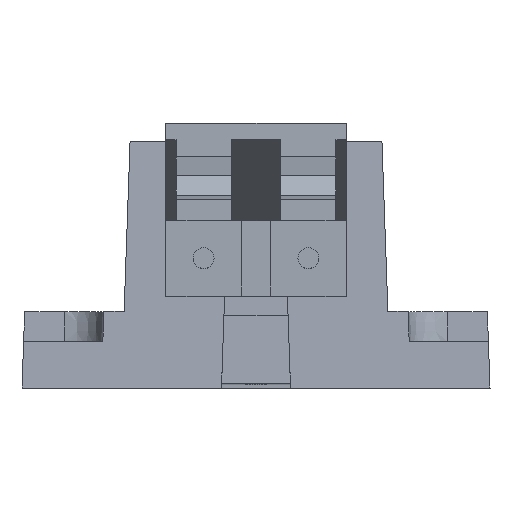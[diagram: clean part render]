
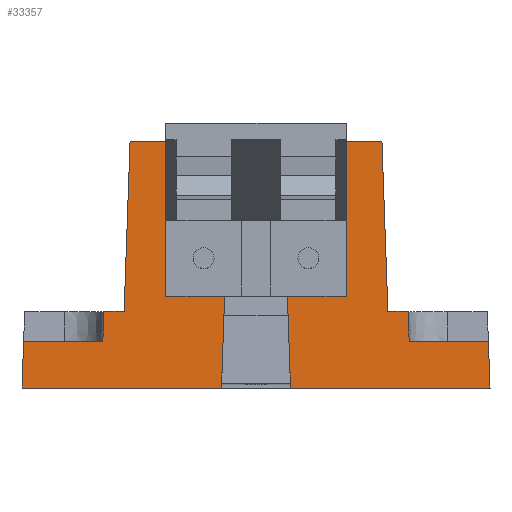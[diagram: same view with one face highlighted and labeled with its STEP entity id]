
A CAD part, top view. The second image highlights one B-rep face of the part: STEP entity #33357.
In plain terms, the highlighted planar face has unit normal (0, 0.035, 0.999).
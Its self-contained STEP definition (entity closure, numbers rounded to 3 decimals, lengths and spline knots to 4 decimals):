
#577 = VERTEX_POINT ( 'NONE', #27700 ) ;
#873 = VECTOR ( 'NONE', #10058, 39.3701 ) ;
#896 = ORIENTED_EDGE ( 'NONE', *, *, #11967, .F. ) ;
#1096 = CARTESIAN_POINT ( 'NONE',  ( -0.3086, -0.0698, 0.6573 ) ) ;
#1538 = VERTEX_POINT ( 'NONE', #14674 ) ;
#1718 = VECTOR ( 'NONE', #38272, 39.3701 ) ;
#1773 = CARTESIAN_POINT ( 'NONE',  ( -0.55, -0.29, 0.665 ) ) ;
#2478 = CARTESIAN_POINT ( 'NONE',  ( -0.0812, -0.29, 0.665 ) ) ;
#2604 = VECTOR ( 'NONE', #13169, 39.3701 ) ;
#3720 = ORIENTED_EDGE ( 'NONE', *, *, #38564, .F. ) ;
#4106 = VERTEX_POINT ( 'NONE', #6189 ) ;
#4442 = CARTESIAN_POINT ( 'NONE',  ( 0.55, -0.11, 0.6587 ) ) ;
#4703 = LINE ( 'NONE', #21887, #31379 ) ;
#4911 = DIRECTION ( 'NONE',  ( -0.035, -0.999, 0.035 ) ) ;
#5694 = VECTOR ( 'NONE', #22563, 39.3701 ) ;
#5908 = ORIENTED_EDGE ( 'NONE', *, *, #33620, .T. ) ;
#5923 = VECTOR ( 'NONE', #38105, 39.3701 ) ;
#6158 = AXIS2_PLACEMENT_3D ( 'NONE', #1773, #22459, #18981 ) ;
#6189 = CARTESIAN_POINT ( 'NONE',  ( 0.5462, -0.18, 0.6612 ) ) ;
#6546 = FACE_OUTER_BOUND ( 'NONE', #15514, .T. ) ;
#7117 = LINE ( 'NONE', #17545, #39768 ) ;
#7917 = LINE ( 'NONE', #1096, #32368 ) ;
#8007 = LINE ( 'NONE', #33281, #16145 ) ;
#8013 = ORIENTED_EDGE ( 'NONE', *, *, #21787, .F. ) ;
#8757 = VECTOR ( 'NONE', #44839, 39.3701 ) ;
#8810 = EDGE_CURVE ( 'NONE', #31284, #11715, #7117, .T. ) ;
#9016 = CARTESIAN_POINT ( 'NONE',  ( 0.31, -0.11, 0.6587 ) ) ;
#9143 = DIRECTION ( 'NONE',  ( -0.035, -0.999, 0.035 ) ) ;
#9154 = VERTEX_POINT ( 'NONE', #14427 ) ;
#9369 = ORIENTED_EDGE ( 'NONE', *, *, #8810, .T. ) ;
#9759 = CARTESIAN_POINT ( 'NONE',  ( 0.3627, -0.2582, 0.6639 ) ) ;
#10058 = DIRECTION ( 'NONE',  ( -0.035, 0.999, -0.035 ) ) ;
#10161 = CARTESIAN_POINT ( 'NONE',  ( 0.296, 0.29, 0.6448 ) ) ;
#10362 = LINE ( 'NONE', #4442, #22332 ) ;
#10510 = VECTOR ( 'NONE', #19392, 39.3701 ) ;
#10662 = LINE ( 'NONE', #9759, #873 ) ;
#11288 = EDGE_CURVE ( 'NONE', #9154, #11715, #42974, .T. ) ;
#11715 = VERTEX_POINT ( 'NONE', #14124 ) ;
#11722 = VERTEX_POINT ( 'NONE', #34692 ) ;
#11863 = DIRECTION ( 'NONE',  ( -0.035, 0.999, -0.035 ) ) ;
#11967 = EDGE_CURVE ( 'NONE', #31284, #34164, #30379, .T. ) ;
#13169 = DIRECTION ( 'NONE',  ( 1., 0., 0. ) ) ;
#13620 = CARTESIAN_POINT ( 'NONE',  ( -0.55, -0.29, 0.665 ) ) ;
#14124 = CARTESIAN_POINT ( 'NONE',  ( -0.36, -0.18, 0.6612 ) ) ;
#14427 = CARTESIAN_POINT ( 'NONE',  ( -0.5462, -0.18, 0.6612 ) ) ;
#14674 = CARTESIAN_POINT ( 'NONE',  ( -0.07, 0.0324, 0.6538 ) ) ;
#15514 = EDGE_LOOP ( 'NONE', ( #43300, #31901, #8013, #19417, #37462, #3720, #896, #9369, #28506, #34691, #40386, #36052, #38054, #31701, #39839, #5908 ) ) ;
#15550 = CARTESIAN_POINT ( 'NONE',  ( 0.3086, -0.0698, 0.6573 ) ) ;
#16145 = VECTOR ( 'NONE', #44138, 39.3701 ) ;
#16385 = VECTOR ( 'NONE', #40463, 39.3701 ) ;
#16536 = EDGE_CURVE ( 'NONE', #40687, #4106, #38254, .T. ) ;
#16859 = CARTESIAN_POINT ( 'NONE',  ( -0.55, 0.29, 0.6448 ) ) ;
#17545 = CARTESIAN_POINT ( 'NONE',  ( -0.3641, -0.2965, 0.6653 ) ) ;
#17833 = EDGE_CURVE ( 'NONE', #9154, #577, #44773, .T. ) ;
#17975 = LINE ( 'NONE', #20462, #8757 ) ;
#18153 = DIRECTION ( 'NONE',  ( 0.035, 0.999, -0.035 ) ) ;
#18186 = VERTEX_POINT ( 'NONE', #2478 ) ;
#18463 = DIRECTION ( 'NONE',  ( 1., 0., 0. ) ) ;
#18891 = CARTESIAN_POINT ( 'NONE',  ( -0.31, -0.11, 0.6587 ) ) ;
#18981 = DIRECTION ( 'NONE',  ( 0., 0.999, -0.035 ) ) ;
#19061 = CARTESIAN_POINT ( 'NONE',  ( -0.3576, -0.11, 0.6587 ) ) ;
#19154 = LINE ( 'NONE', #13620, #1718 ) ;
#19392 = DIRECTION ( 'NONE',  ( 1., 0., 0. ) ) ;
#19417 = ORIENTED_EDGE ( 'NONE', *, *, #28357, .F. ) ;
#19537 = CARTESIAN_POINT ( 'NONE',  ( -0.55, -0.18, 0.6612 ) ) ;
#20333 = EDGE_CURVE ( 'NONE', #31261, #11722, #19154, .T. ) ;
#20462 = CARTESIAN_POINT ( 'NONE',  ( 0.5487, -0.2517, 0.6637 ) ) ;
#20651 = VECTOR ( 'NONE', #9143, 39.3701 ) ;
#21787 = EDGE_CURVE ( 'NONE', #31445, #26227, #10362, .T. ) ;
#21887 = CARTESIAN_POINT ( 'NONE',  ( 0.0798, -0.2496, 0.6636 ) ) ;
#21980 = LINE ( 'NONE', #16859, #30703 ) ;
#22332 = VECTOR ( 'NONE', #18463, 39.3701 ) ;
#22390 = CARTESIAN_POINT ( 'NONE',  ( 0.0812, -0.29, 0.665 ) ) ;
#22459 = DIRECTION ( 'NONE',  ( 0., 0.035, 0.999 ) ) ;
#22563 = DIRECTION ( 'NONE',  ( 0.035, -0.999, 0.035 ) ) ;
#23567 = DIRECTION ( 'NONE',  ( -1., 0., 0. ) ) ;
#25057 = EDGE_CURVE ( 'NONE', #25977, #1538, #31320, .T. ) ;
#25977 = VERTEX_POINT ( 'NONE', #29840 ) ;
#26227 = VERTEX_POINT ( 'NONE', #41548 ) ;
#26370 = EDGE_CURVE ( 'NONE', #31261, #25977, #4703, .T. ) ;
#26614 = CARTESIAN_POINT ( 'NONE',  ( -0.0798, -0.2496, 0.6636 ) ) ;
#26915 = EDGE_CURVE ( 'NONE', #40687, #26227, #10662, .T. ) ;
#26997 = CARTESIAN_POINT ( 'NONE',  ( -0.07, 0.0324, 0.6538 ) ) ;
#27700 = CARTESIAN_POINT ( 'NONE',  ( -0.55, -0.29, 0.665 ) ) ;
#27767 = CARTESIAN_POINT ( 'NONE',  ( -0.55, -0.18, 0.6612 ) ) ;
#28357 = EDGE_CURVE ( 'NONE', #32503, #31445, #37231, .T. ) ;
#28506 = ORIENTED_EDGE ( 'NONE', *, *, #11288, .F. ) ;
#29840 = CARTESIAN_POINT ( 'NONE',  ( 0.07, 0.0324, 0.6538 ) ) ;
#30379 = LINE ( 'NONE', #30524, #2604 ) ;
#30524 = CARTESIAN_POINT ( 'NONE',  ( -0.55, -0.11, 0.6587 ) ) ;
#30640 = CARTESIAN_POINT ( 'NONE',  ( 0.0654, 0.1631, 0.6492 ) ) ;
#30703 = VECTOR ( 'NONE', #23567, 39.3701 ) ;
#31261 = VERTEX_POINT ( 'NONE', #22390 ) ;
#31284 = VERTEX_POINT ( 'NONE', #19061 ) ;
#31320 =( BOUNDED_CURVE ( )  B_SPLINE_CURVE ( 3, ( #41155, #30640, #44384, #26997 ),
 .UNSPECIFIED., .F., .T. ) 
 B_SPLINE_CURVE_WITH_KNOTS ( ( 4, 4 ),
 ( 1.6057, 4.6775 ),
 .UNSPECIFIED. ) 
 CURVE ( )  GEOMETRIC_REPRESENTATION_ITEM ( )  RATIONAL_B_SPLINE_CURVE ( ( 1., 0.357, 0.357, 1. ) ) 
 REPRESENTATION_ITEM ( '' )  );
#31379 = VECTOR ( 'NONE', #11863, 39.3701 ) ;
#31445 = VERTEX_POINT ( 'NONE', #9016 ) ;
#31701 = ORIENTED_EDGE ( 'NONE', *, *, #26370, .F. ) ;
#31901 = ORIENTED_EDGE ( 'NONE', *, *, #26915, .T. ) ;
#32325 = CARTESIAN_POINT ( 'NONE',  ( -0.296, 0.29, 0.6448 ) ) ;
#32368 = VECTOR ( 'NONE', #18153, 39.3701 ) ;
#32503 = VERTEX_POINT ( 'NONE', #10161 ) ;
#32734 = CARTESIAN_POINT ( 'NONE',  ( 0.36, -0.18, 0.6612 ) ) ;
#32936 = PLANE ( 'NONE',  #6158 ) ;
#33281 = CARTESIAN_POINT ( 'NONE',  ( -0.55, -0.29, 0.665 ) ) ;
#33357 = ADVANCED_FACE ( 'NONE', ( #6546 ), #32936, .T. ) ;
#33620 = EDGE_CURVE ( 'NONE', #11722, #4106, #17975, .T. ) ;
#33749 = CARTESIAN_POINT ( 'NONE',  ( -0.55, -0.29, 0.665 ) ) ;
#34164 = VERTEX_POINT ( 'NONE', #18891 ) ;
#34262 = EDGE_CURVE ( 'NONE', #1538, #18186, #35869, .T. ) ;
#34691 = ORIENTED_EDGE ( 'NONE', *, *, #17833, .T. ) ;
#34692 = CARTESIAN_POINT ( 'NONE',  ( 0.55, -0.29, 0.665 ) ) ;
#35869 = LINE ( 'NONE', #26614, #20651 ) ;
#36052 = ORIENTED_EDGE ( 'NONE', *, *, #34262, .F. ) ;
#36865 = EDGE_CURVE ( 'NONE', #577, #18186, #8007, .T. ) ;
#37231 = LINE ( 'NONE', #15550, #5694 ) ;
#37462 = ORIENTED_EDGE ( 'NONE', *, *, #41281, .T. ) ;
#37808 = VERTEX_POINT ( 'NONE', #32325 ) ;
#38054 = ORIENTED_EDGE ( 'NONE', *, *, #25057, .F. ) ;
#38105 = DIRECTION ( 'NONE',  ( 1., 0., 0. ) ) ;
#38254 = LINE ( 'NONE', #19537, #10510 ) ;
#38272 = DIRECTION ( 'NONE',  ( 1., 0., 0. ) ) ;
#38564 = EDGE_CURVE ( 'NONE', #34164, #37808, #7917, .T. ) ;
#39768 = VECTOR ( 'NONE', #4911, 39.3701 ) ;
#39839 = ORIENTED_EDGE ( 'NONE', *, *, #20333, .T. ) ;
#40386 = ORIENTED_EDGE ( 'NONE', *, *, #36865, .T. ) ;
#40463 = DIRECTION ( 'NONE',  ( -0.035, -0.999, 0.035 ) ) ;
#40687 = VERTEX_POINT ( 'NONE', #32734 ) ;
#41155 = CARTESIAN_POINT ( 'NONE',  ( 0.07, 0.0324, 0.6538 ) ) ;
#41281 = EDGE_CURVE ( 'NONE', #32503, #37808, #21980, .T. ) ;
#41548 = CARTESIAN_POINT ( 'NONE',  ( 0.3576, -0.11, 0.6587 ) ) ;
#42974 = LINE ( 'NONE', #27767, #5923 ) ;
#43300 = ORIENTED_EDGE ( 'NONE', *, *, #16536, .F. ) ;
#44138 = DIRECTION ( 'NONE',  ( 1., 0., 0. ) ) ;
#44384 = CARTESIAN_POINT ( 'NONE',  ( -0.0654, 0.1631, 0.6492 ) ) ;
#44773 = LINE ( 'NONE', #33749, #16385 ) ;
#44839 = DIRECTION ( 'NONE',  ( -0.035, 0.999, -0.035 ) ) ;
